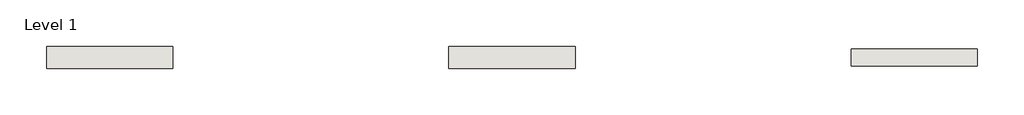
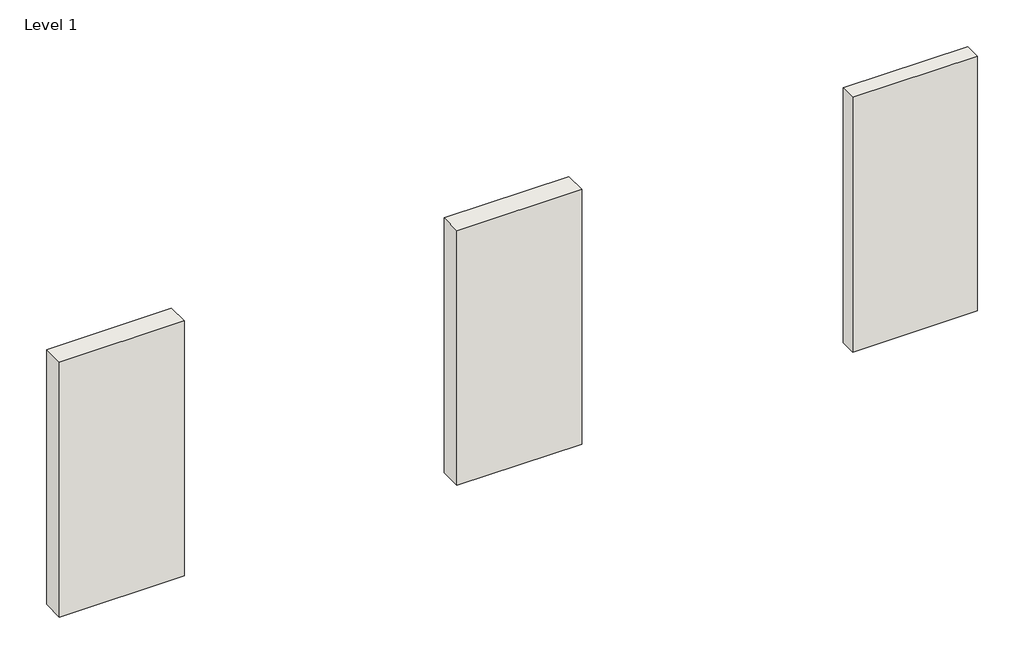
# One storey: 3 walls.
"""IFC4 building model written with IfcOpenShell, lengths in millimetres."""

import ifcopenshell
import ifcopenshell.guid

model = None  # the IFC model being written
_history = None  # IfcOwnerHistory: only IFC2X3 demands one
_inside = {}  # id of a spatial element -> (the spatial element, [elements in it])
_under = {}  # id of a project, library or spatial element -> (it, [spatial elements below it])
_declared = {}  # id of a project -> (the project, [libraries it declares])
_typed = {}  # id of a type object -> (the type object, [elements of that type])
_made_of = {}  # id of a material, layer set ... -> (it, [elements and type objects made of it])


def new_model(schema):
    """Start an empty IFC model of exactly this schema.

    Asked for "IFC4X3", IfcOpenShell would pick the latest addendum, in which some entities
    have other attributes; the version numbers below select the first issue.
    IFC2X3 requires an IfcOwnerHistory on every rooted entity: one is made here for all.
    """
    global model, _history
    if schema == "IFC4X3":
        model = ifcopenshell.file(schema_version=(4, 3, 0, 0))
    else:
        model = ifcopenshell.file(schema=schema)
    _inside.clear()
    _under.clear()
    _declared.clear()
    _typed.clear()
    _made_of.clear()
    _history = None
    if model.schema == "IFC2X3":
        org = make("IfcOrganization", Name="unknown")
        user = make(
            "IfcPersonAndOrganization",
            ThePerson=make("IfcPerson", FamilyName="unknown"),
            TheOrganization=org,
        )
        app = make(
            "IfcApplication",
            ApplicationDeveloper=org,
            Version="unknown",
            ApplicationFullName="unknown",
            ApplicationIdentifier="unknown",
        )
        _history = make(
            "IfcOwnerHistory",
            OwningUser=user,
            OwningApplication=app,
            ChangeAction="ADDED",
            CreationDate=0,
        )
    return model


def make(cls, **values):
    """One entity of the class cls with the attributes given. An attribute that is None is left unset."""
    return model.create_entity(
        cls, **{name: value for name, value in values.items() if value is not None}
    )


def rooted(cls, **values):
    """An entity with a GlobalId (a new one), such as an element, a storey or a relation."""
    return make(cls, GlobalId=ifcopenshell.guid.new(), OwnerHistory=_history, **values)


def si_unit(unit_type, name, prefix=None):
    """IfcSIUnit, for example si_unit("LENGTHUNIT", "METRE", prefix="MILLI")."""
    return make("IfcSIUnit", UnitType=unit_type, Prefix=prefix, Name=name)


def assignment(units):
    """IfcUnitAssignment: the units of a project."""
    return None if units is None else make("IfcUnitAssignment", Units=units)


def point(xyz):
    """IfcCartesianPoint."""
    return None if xyz is None else make("IfcCartesianPoint", Coordinates=xyz)


def direction(xyz):
    """IfcDirection."""
    return None if xyz is None else make("IfcDirection", DirectionRatios=xyz)


def frame(location, z_axis=None, x_axis=None):
    """IfcAxis2Placement3D, a coordinate frame: its origin and axes. An axis left out is left unset."""
    return make(
        "IfcAxis2Placement3D",
        Location=point(location),
        Axis=direction(z_axis),
        RefDirection=direction(x_axis),
    )


def origin():
    """The frame at (0, 0, 0) with its axes left unset."""
    return frame((0.0, 0.0, 0.0))


def place(relative_to, where):
    """IfcLocalPlacement: puts the frame where relative to a parent placement (None: the world)."""
    return make(
        "IfcLocalPlacement", PlacementRelTo=relative_to, RelativePlacement=where
    )


def context(
    kind, dimensions, precision=None, world=None, true_north=None, identifier=None
):
    """IfcGeometricRepresentationContext, for example the 3D "Model" context."""
    return make(
        "IfcGeometricRepresentationContext",
        ContextIdentifier=identifier,
        ContextType=kind,
        CoordinateSpaceDimension=dimensions,
        Precision=precision,
        WorldCoordinateSystem=world,
        TrueNorth=true_north,
    )


def project(units=None, contexts=None):
    """IfcProject with its units and contexts."""
    return rooted(
        "IfcProject",
        Name="project",
        RepresentationContexts=contexts,
        UnitsInContext=assignment(units),
    )


def spatial(cls, under=None, at=None, **own):
    """A site, building, storey or space (cls), placed at a placement, below another one or the project."""
    s = rooted(cls, ObjectPlacement=at, **own)
    if under is not None:
        _under.setdefault(under.id(), (under, []))[1].append(s)
    return s


def polyline(points):
    """IfcPolyline through the points."""
    return make("IfcPolyline", Points=[point(p) for p in points])


def outline(outer, holes=None, kind="AREA"):
    """IfcArbitraryClosedProfileDef: a profile drawn as a closed curve; with holes, ...WithVoids."""
    if holes is None:
        return make("IfcArbitraryClosedProfileDef", ProfileType=kind, OuterCurve=outer)
    return make(
        "IfcArbitraryProfileDefWithVoids",
        ProfileType=kind,
        OuterCurve=outer,
        InnerCurves=holes,
    )


def extrude(swept, where, along, depth):
    """IfcExtrudedAreaSolid: the profile swept, set in the frame where, extruded along a direction by depth."""
    return make(
        "IfcExtrudedAreaSolid",
        SweptArea=swept,
        Position=where,
        ExtrudedDirection=direction(along),
        Depth=depth,
    )


def shape(context_of_items, identifier, shape_type, items):
    """IfcShapeRepresentation: the items that make up one representation, for example the "Body"."""
    return make(
        "IfcShapeRepresentation",
        ContextOfItems=context_of_items,
        RepresentationIdentifier=identifier,
        RepresentationType=shape_type,
        Items=items,
    )


def made_of(thing, what):
    """Note that an element or type object is made of a material, layer set ...; save() writes the relation."""
    if what is not None:
        _made_of.setdefault(what.id(), (what, []))[1].append(thing)
    return thing


def element(
    cls,
    number,
    at=None,
    inside=None,
    cuts=None,
    type_object=None,
    material=None,
    context=None,
    identifier="Body",
    shape_type=None,
    held_by="IfcProductDefinitionShape",
    body=None,
    shapes=None,
    **own,
):
    """One element of the class cls, such as IfcWall. Its Tag is "e" and its number.

    at: its placement. inside: the storey or other place that contains it. cuts: it is an
    opening in that element (IfcRelVoidsElement). A single representation is given by context,
    identifier, shape_type and body (its items); several are given by shapes. held_by: the class
    of the entity that holds the representations. save() writes the other relations.
    """
    e = rooted(cls, Tag="e%d" % number, ObjectPlacement=at, **own)
    if body is not None:
        shapes = [shape(context, identifier, shape_type, body)]
    if shapes is not None:
        e.Representation = make(held_by, Representations=shapes)
    if inside is not None:
        _inside.setdefault(inside.id(), (inside, []))[1].append(e)
    if cuts is not None:
        rooted(
            "IfcRelVoidsElement", RelatingBuildingElement=cuts, RelatedOpeningElement=e
        )
    if type_object is not None:
        _typed.setdefault(type_object.id(), (type_object, []))[1].append(e)
    return made_of(e, material)


def aggregate(whole, parts):
    """IfcRelAggregates: a whole, such as a stair, and the parts it consists of."""
    return rooted("IfcRelAggregates", RelatingObject=whole, RelatedObjects=parts)


def save(model, path):
    """Write the relations noted so far, then the file.

    IfcRelAggregates (storeys below a building ...), IfcRelContainedInSpatialStructure (elements
    in a storey), IfcRelDefinesByType, IfcRelAssociatesMaterial and IfcRelDeclares: one each for
    every whole, place, type object, material and project.
    """
    for whole, parts in _under.values():
        aggregate(whole, parts)
    for where, things in _inside.values():
        rooted(
            "IfcRelContainedInSpatialStructure",
            RelatedElements=things,
            RelatingStructure=where,
        )
    for kind, things in _typed.values():
        rooted("IfcRelDefinesByType", RelatedObjects=things, RelatingType=kind)
    for what, things in _made_of.values():
        rooted("IfcRelAssociatesMaterial", RelatedObjects=things, RelatingMaterial=what)
    for by, libraries in _declared.values():
        rooted("IfcRelDeclares", RelatingContext=by, RelatedDefinitions=libraries)
    model.write(path)


model = new_model("IFC4")

# Units and contexts
model_context = context("Model", 3, world=origin())
ifc_project = project(units=[si_unit("LENGTHUNIT", "METRE", prefix="MILLI")], contexts=[model_context])

# Site, building, storey
site = spatial("IfcSite", under=ifc_project)
building = spatial("IfcBuilding", under=site)
storey = spatial("IfcBuildingStorey", under=building, Name="Level 1", Elevation=0.0)

# Walls
placement = place(None, origin())
element("IfcWall", 1, ObjectType="Nativo - Wood Fiber Insulation 200mm 565x1220", at=placement, inside=storey, context=model_context, shape_type="SweptSolid", body=[
    extrude(outline(polyline([(-117.735738, -1337.2130659), (-1247.735738, -1337.2130659), (-1247.735738, -1137.2130659), (-117.735738, -1137.2130659), (-117.735738, -1337.2130659)])), frame((0.0, 0.0, -6000.0), z_axis=(0.0, 0.0, 1.0), x_axis=(1.0, 0.0, 0.0)), (0.0, 0.0, 1.0), 2440.0),
])
element("IfcWall", 2, ObjectType="Nativo - Wood Fiber Insulation 150mm 565x1220", at=placement, inside=storey, context=model_context, shape_type="SweptSolid", body=[
    extrude(outline(polyline([(3482.264262, -1312.2130659), (2352.264262, -1312.2130659), (2352.264262, -1162.2130659), (3482.264262, -1162.2130659), (3482.264262, -1312.2130659)])), frame((0.0, 0.0, -6000.0), z_axis=(0.0, 0.0, 1.0), x_axis=(1.0, 0.0, 0.0)), (0.0, 0.0, 1.0), 2440.0),
])
element("IfcWall", 3, ObjectType="Nativo - Blown-in insulation", at=placement, inside=storey, context=model_context, shape_type="SweptSolid", body=[
    extrude(outline(polyline([(-3717.735738, -1337.2130659), (-4847.735738, -1337.2130659), (-4847.735738, -1137.2130659), (-3717.735738, -1137.2130659), (-3717.735738, -1337.2130659)])), frame((0.0, 0.0, -6000.0), z_axis=(0.0, 0.0, 1.0), x_axis=(1.0, 0.0, 0.0)), (0.0, 0.0, 1.0), 2440.0),
])

save(model, "model.ifc")
